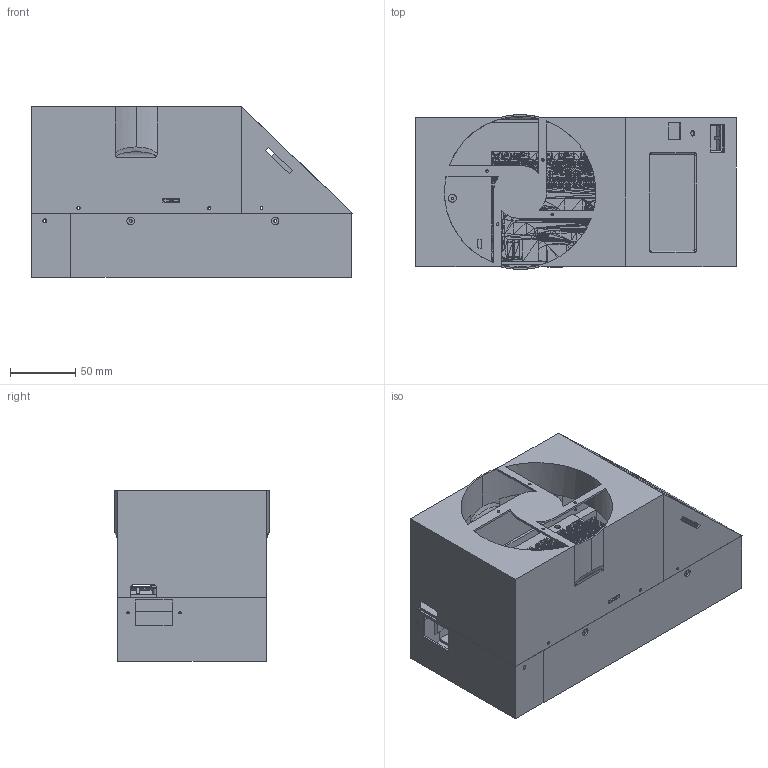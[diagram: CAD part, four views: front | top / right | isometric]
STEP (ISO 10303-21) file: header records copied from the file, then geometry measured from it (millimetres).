
FILE_DESCRIPTION (( 'STEP AP214' ), '1' );
FILE_NAME ('silent box.STEP', '2020-02-21T19:44:19', ( 'RAMA' ), ( '' ), 'SwSTEP 2.0', 'SolidWorks 2019', '' );
FILE_SCHEMA (( 'AUTOMOTIVE_DESIGN' ));
Products named in the file (9): display box; power box; rail L; power in; skr13; skr bed; rail R; silent box; fan box
Assembly tree (8 placements, depth 2):
  silent box
    power box
    display box
    skr13
    rail L
    power in
    rail R
    skr bed
    fan box
Bounding box: 245.41 x 118.4 x 130.65 mm (x, y, z)
Volume: 367686.6 mm3; surface area: 381061 mm2
Topology: 10 solids, 10 shells, 19049 faces, 29074 edges, 10044 vertices
Faces by surface type: plane 18878, cylinder 163, torus 4, bspline 4
Entity records: 378036 total; most frequent: DIRECTION 67488, CARTESIAN_POINT 59207, ORIENTED_EDGE 58148, EDGE_CURVE 29074, VECTOR 28726, LINE 28726, AXIS2_PLACEMENT_3D 19381, EDGE_LOOP 19204
